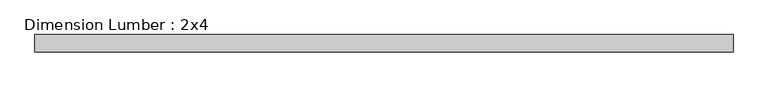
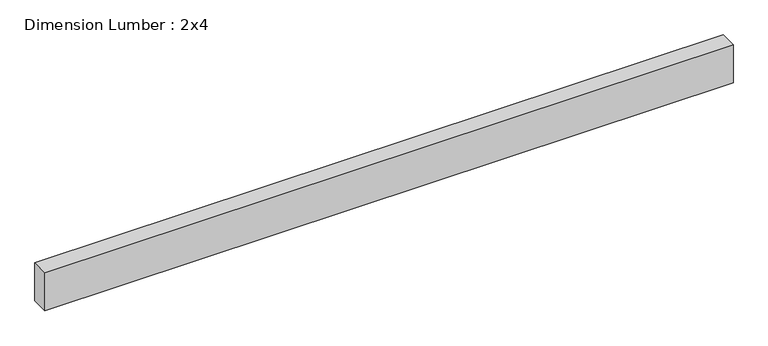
"""IFC4 building model written with IfcOpenShell, lengths in millimetres: beam geometry, Dimension Lumber : 2x4."""

from ifc_helpers import new_model, si_unit, frame, origin, place, context, project, spatial, polyline, outline, extrude, source, transform, mapped, element, save


def dimension_lumber_2x4_65d8d74e(model_context):
    return source(origin(), model_context, "Body", "SweptSolid", [
        extrude(outline(polyline([(760.6032592, 19.05), (760.6032592, -19.05), (-760.6032592, -19.05), (-760.6032592, 19.05), (760.6032592, 19.05)])), frame((0.0, 0.0, -44.45), z_axis=(0.0, 0.0, 1.0), x_axis=(1.0, 0.0, 0.0)), (0.0, 0.0, 1.0), 88.9),
    ])


if __name__ == "__main__":
    model = new_model("IFC4")
    model_context = context("Model", 3, world=origin())
    ifc_project = project(units=[si_unit("LENGTHUNIT", "METRE", prefix="MILLI")], contexts=[model_context])
    site = spatial("IfcSite", under=ifc_project)
    building = spatial("IfcBuilding", under=site)
    placement = place(None, origin())
    dimension_lumber_2x4_shape = dimension_lumber_2x4_65d8d74e(model_context)
    element("IfcBeam", 1, ObjectType="Dimension Lumber : 2x4", at=placement, inside=building, context=model_context, shape_type="MappedRepresentation", body=[
        mapped(dimension_lumber_2x4_shape, transform((0.0, 0.0, 0.0), x_axis=(1.0, 0.0, 0.0), y_axis=(0.0, 1.0, 0.0), z_axis=(0.0, 0.0, 1.0))),
    ])
    save(model, "model.ifc")
